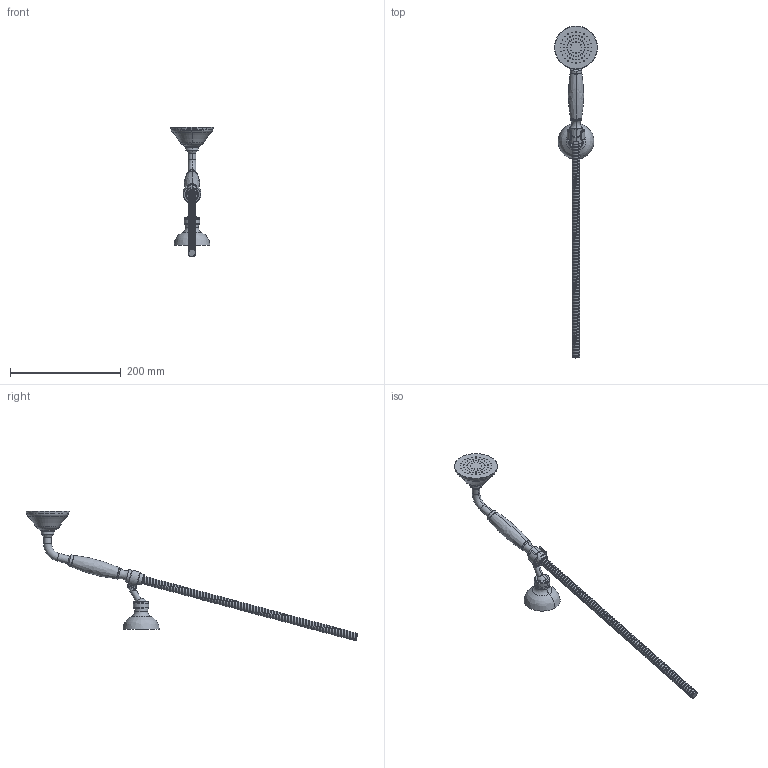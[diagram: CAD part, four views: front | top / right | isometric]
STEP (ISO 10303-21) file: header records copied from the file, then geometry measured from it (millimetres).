
FILE_DESCRIPTION((''),'2;1');
FILE_NAME('DOCCIA_FILE_3D','2013-07-01T',('ivanv'),(''),'PRO/ENGINEER BY PARAMETRIC TECHNOLOGY CORPORATION, 2012130','PRO/ENGINEER BY PARAMETRIC TECHNOLOGY CORPORATION, 2012130','');
FILE_SCHEMA(('CONFIG_CONTROL_DESIGN'));
Products named in the file (1): DOCCIA_FILE_3D
Bounding box: 77.68 x 599.13 x 234.19 mm (x, y, z)
Volume: 241091.1 mm3; surface area: 75123.9 mm2
Topology: 1 solids, 2 shells, 615 faces, 1426 edges, 907 vertices
Faces by surface type: cylinder 354, plane 111, bspline 86, torus 36, cone 18, sphere 10
Entity records: 52863 total; most frequent: CARTESIAN_POINT 39503, ORIENTED_EDGE 2848, DIRECTION 2577, EDGE_CURVE 1424, AXIS2_PLACEMENT_3D 1069, VERTEX_POINT 907, EDGE_LOOP 711, FACE_OUTER_BOUND 615
